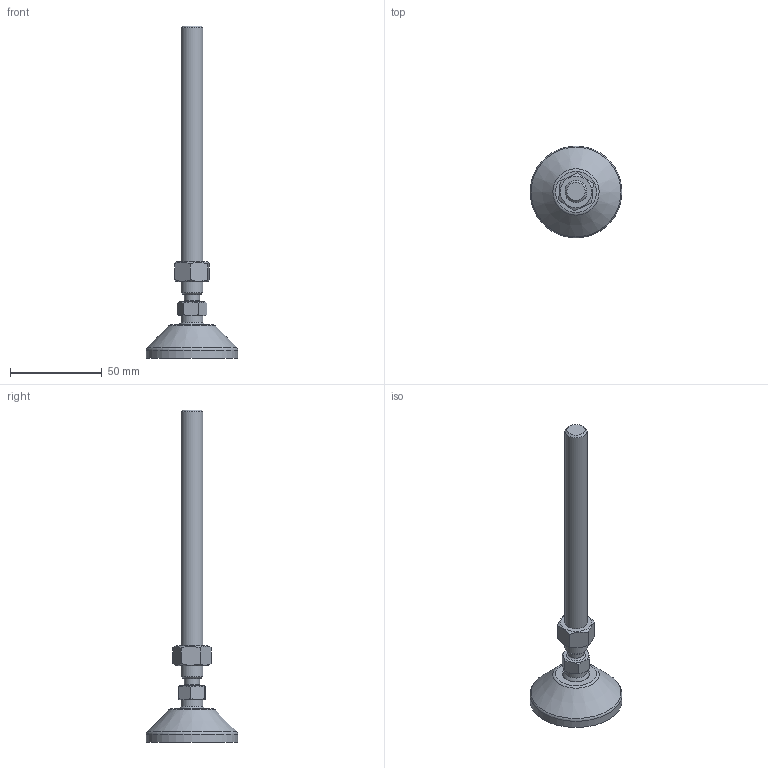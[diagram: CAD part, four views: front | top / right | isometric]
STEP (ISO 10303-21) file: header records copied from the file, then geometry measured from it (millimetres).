
FILE_DESCRIPTION(('STEP AP203'), '1');
FILE_NAME('栖闉罻', '', ('UNSPECIFIED'), ('UNSPECIFIED'), 'C3D Converter', 'C3D Toolkit', '');
FILE_SCHEMA(('CONFIG_CONTROL_DESIGN'));
Length unit declared in the file: millimetre
Products named in the file (4): A00015.1050; A00020.112150
Assembly tree (3 placements, depth 3):
  (unnamed)
    A00015.1050
    A00020.112150
      (unnamed)
Bounding box: 50 x 50 x 180.48 mm (x, y, z)
Volume: 37365.2 mm3; surface area: 16033.9 mm2
Topology: 3 solids, 3 shells, 189 faces, 500 edges, 330 vertices
Faces by surface type: plane 87, cylinder 50, torus 30, cone 20, sphere 2
Full cylindrical faces by diameter (mm): 4 x8, 8.3 x1, 10.647 x1, 12 x2, 14.3 x1, 15 x2, 15.5 x1, 39 x1, 50 x1
Entity records: 9755 total; most frequent: CARTESIAN_POINT 3487, DIRECTION 956, ORIENTED_EDGE 930, EDGE_CURVE 465, AXIS2_PLACEMENT_3D 400, VERTEX_POINT 329, EDGE_LOOP 238, CIRCLE 207
